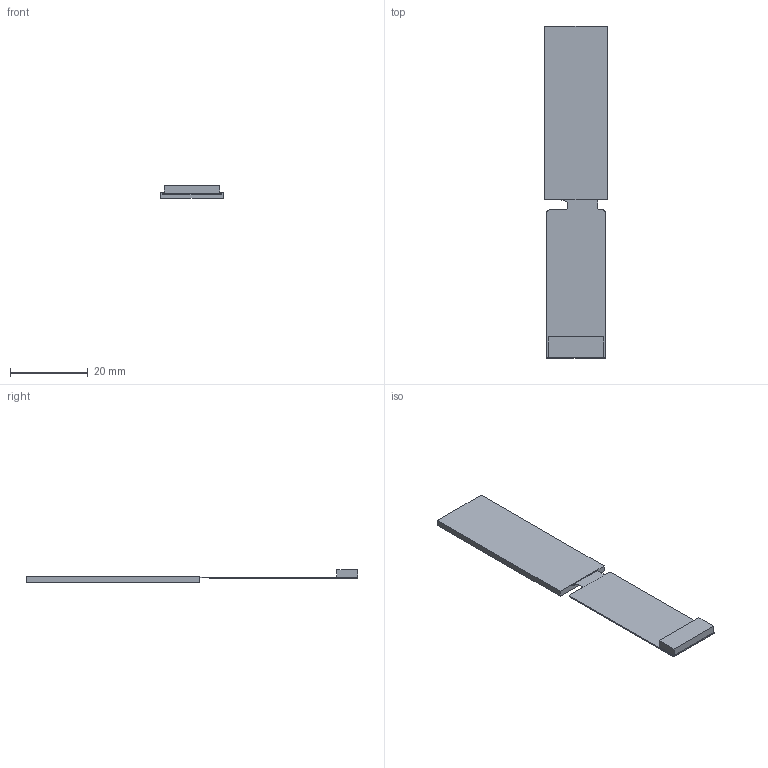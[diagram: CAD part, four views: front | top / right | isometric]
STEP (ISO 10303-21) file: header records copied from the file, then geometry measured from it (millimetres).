
FILE_DESCRIPTION((''),'2;1');
FILE_NAME('DMG14428F016-05WN-250528','2009-01-01T',('Administrator'),(''),'PRO/ENGINEER BY PARAMETRIC TECHNOLOGY CORPORATION, 2008380','PRO/ENGINEER BY PARAMETRIC TECHNOLOGY CORPORATION, 2008380','');
FILE_SCHEMA(('CONFIG_CONTROL_DESIGN'));
Length unit declared in the file: millimetre
Products named in the file (1): DMG14428F016-05WN-250528
Bounding box: 16 x 85.48 x 3.32 mm (x, y, z)
Volume: 1468.6 mm3; surface area: 2918.4 mm2
Topology: 1 solids, 1 shells, 26 faces, 3747 edges, 6273 vertices
Faces by surface type: plane 21, cylinder 5
Entity records: 31496 total; most frequent: DIRECTION 4927, CARTESIAN_POINT 3843, PRESENTATION_STYLE_ASSIGNMENT 3685, STYLED_ITEM 3685, CURVE_STYLE 3681, TRIMMED_CURVE 3678, VECTOR 2611, LINE 2611
